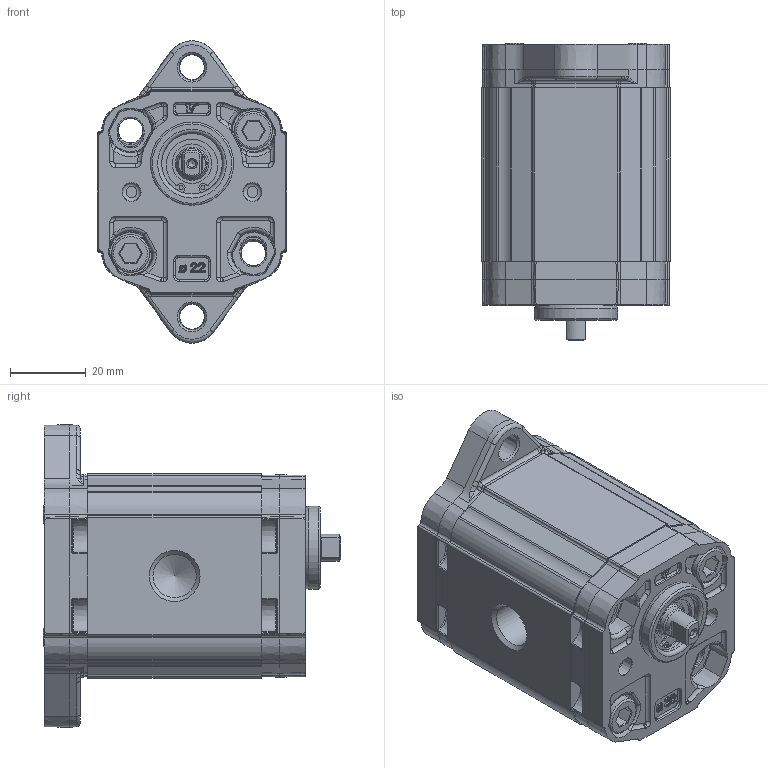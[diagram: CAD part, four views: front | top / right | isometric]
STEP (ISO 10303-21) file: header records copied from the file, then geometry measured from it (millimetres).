
FILE_DESCRIPTION(/* description */ ('Unknown'),/* implementation_level */ '2;1');
FILE_NAME(/* name */ 'X0T1322BBBA',/* time_stamp */ '2026-05-25T17:04:04+02:00',/* author */ ('Unknown'),/* organization */ ('Unknown'),/* preprocessor_version */ 'ST-DEVELOPER v16.7',/* originating_system */ 'Solid Edge',/* authorisation */ 'Unknown');
FILE_SCHEMA (('AUTOMOTIVE_DESIGN {1 0 10303 214 3 1 1}'));
Products named in the file (5): X0T1322BBBA; X0T22; 0B; X0BBH46; XT017-A
Assembly tree (4 placements, depth 2):
  X0T1322BBBA
    X0T22
    0B
    X0BBH46
    XT017-A
Bounding box: 50 x 78.8 x 79.95 mm (x, y, z)
Volume: 153937.9 mm3; surface area: 40803.7 mm2
Topology: 6 solids, 6 shells, 1300 faces, 3248 edges, 1949 vertices
Faces by surface type: cylinder 412, plane 336, bspline 231, cone 182, torus 101, sphere 38
Full cylindrical faces by diameter (mm): 1.053 x2, 2 x2, 6 x6, 6.5 x2, 6.511 x1, 6.518 x5, 6.545 x2, 7.16 x2, 7.5 x2, 7.92 x2, 8 x2, 9.318 x1, 10 x2, 10.445 x1, 11 x1, 11.445 x2, 13 x1, 14 x2, 16 x1, 16.2 x1, 16.8 x1, 22 x2
Entity records: 70115 total; most frequent: CARTESIAN_POINT 32556, ORIENTED_EDGE 6016, DIRECTION 5727, EDGE_CURVE 3008, AXIS2_PLACEMENT_3D 2380, VERTEX_POINT 1887, FACE_BOUND 1517, EDGE_LOOP 1513
